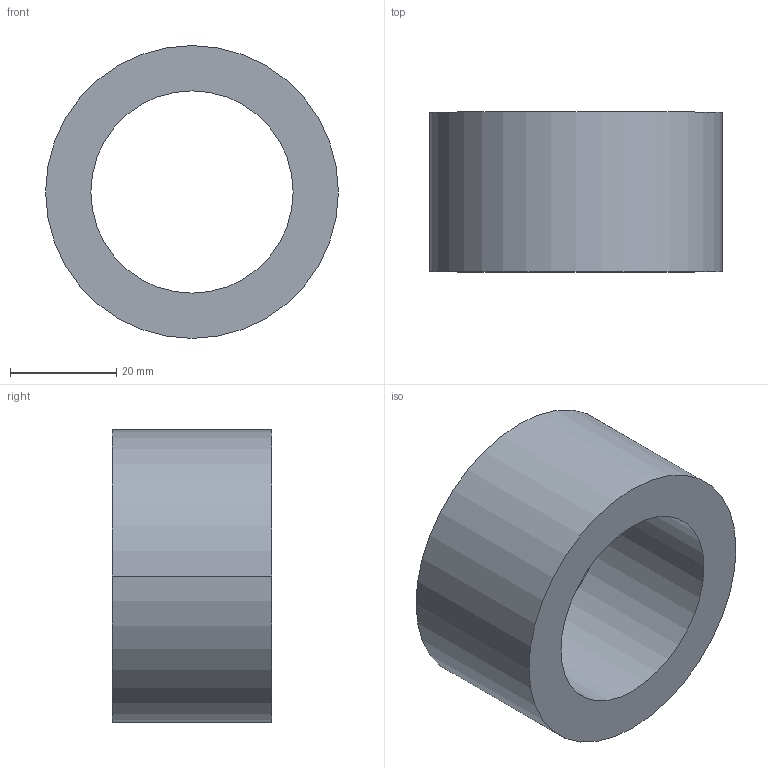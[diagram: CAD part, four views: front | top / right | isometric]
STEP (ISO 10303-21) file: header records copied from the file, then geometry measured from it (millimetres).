
FILE_DESCRIPTION (( 'STEP AP203' ), '1' );
FILE_NAME ('30800.WPP55L38.0.step', '2019-01-23T22:54:42', ( '' ), ( '' ), 'SwSTEP 2.0', 'SolidWorks 2017', '' );
FILE_SCHEMA (( 'CONFIG_CONTROL_DESIGN' ));
Length unit declared in the file: millimetre
Products named in the file (1): 30800.WPP55L38.0
Bounding box: 55 x 30 x 55 mm (x, y, z)
Volume: 36924.7 mm3; surface area: 11074.6 mm2
Topology: 1 solids, 1 shells, 8 faces, 16 edges, 10 vertices
Faces by surface type: cylinder 4, torus 2, plane 2
Entity records: 297 total; most frequent: DIRECTION 46, CARTESIAN_POINT 35, ORIENTED_EDGE 32, AXIS2_PLACEMENT_3D 21, EDGE_CURVE 16, CIRCLE 12, EDGE_LOOP 10, VERTEX_POINT 10
